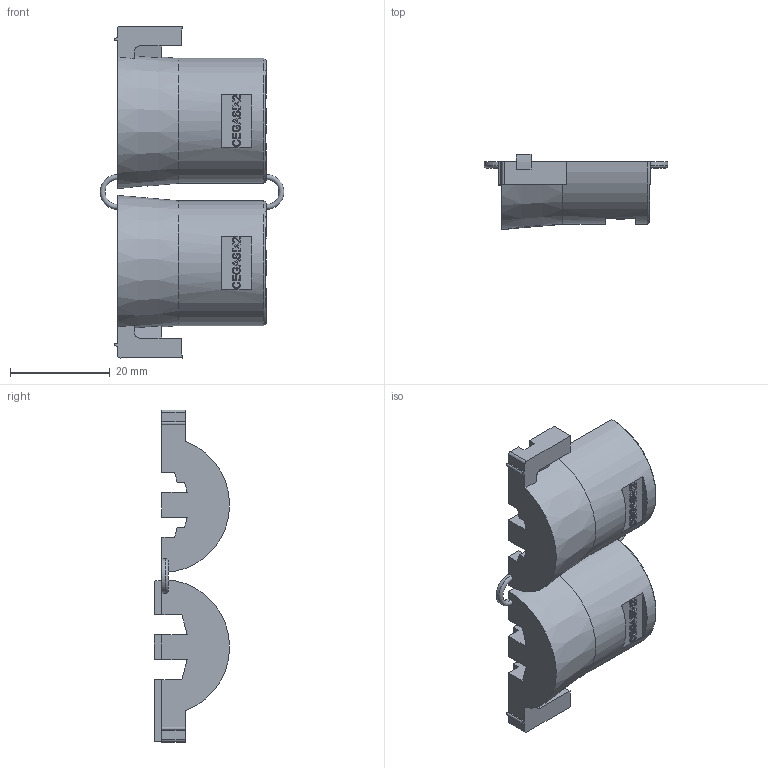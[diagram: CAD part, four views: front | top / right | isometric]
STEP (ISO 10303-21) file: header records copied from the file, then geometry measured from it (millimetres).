
FILE_DESCRIPTION(/* description */ (''),/* implementation_level */ '2;1');
FILE_NAME(/* name */ 'C:\SapWorkDir\Inventor\MP1\ConvertTempPath\87_12_121517_00_B_220624_KDT-X-2 ASI.stp',/* time_stamp */ '2022-06-24T13:06:23+02:00',/* author */ ('BAUER'),/* organization */ (''),/* preprocessor_version */ 'ST-DEVELOPER v16.13',/* originating_system */ 'Autodesk Inventor 2018',/* authorisation */ '');
FILE_SCHEMA (('AUTOMOTIVE_DESIGN { 1 0 10303 214 3 1 1 }'));
Length unit declared in the file: millimetre
Products named in the file (4): 121517; 121516; 121515; Lasche
Assembly tree (4 placements, depth 2):
  121517
    121516
    121515
    Lasche  x2
Bounding box: 36.82 x 15.07 x 66.5 mm (x, y, z)
Volume: 13642.2 mm3; surface area: 6707.8 mm2
Topology: 4 solids, 4 shells, 341 faces, 941 edges, 628 vertices
Faces by surface type: plane 225, bspline 92, cylinder 18, cone 4, torus 2
Entity records: 11608 total; most frequent: CARTESIAN_POINT 3156, ORIENTED_EDGE 1858, DIRECTION 1297, EDGE_CURVE 929, LINE 691, VECTOR 691, VERTEX_POINT 620, EDGE_LOOP 355
